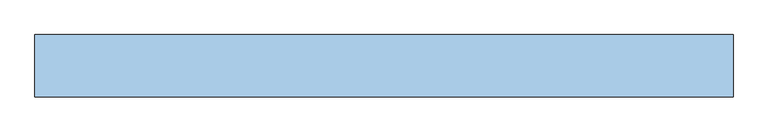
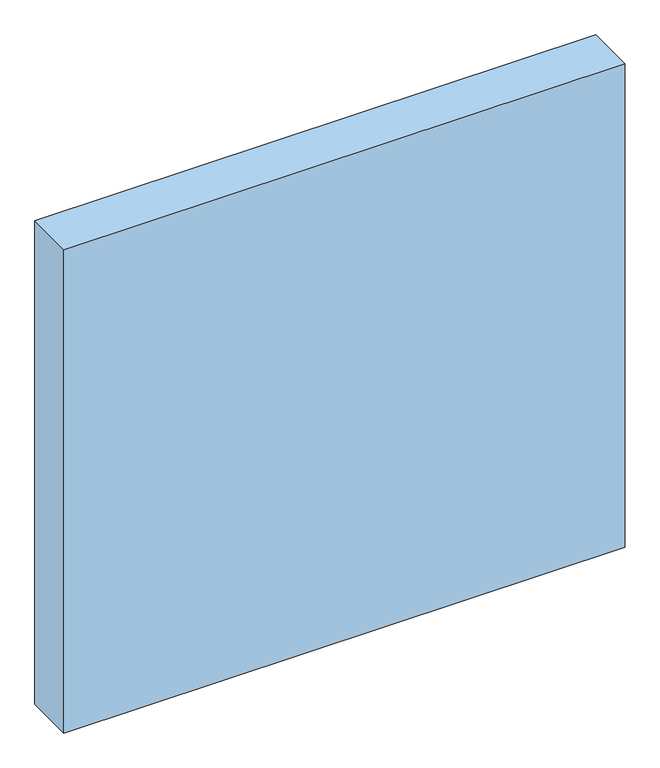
"""IFC4 building model written with IfcOpenShell, lengths in millimetres: window geometry, Dr_Проем-Четверти_об модель : ОК."""

from ifc_helpers import new_model, si_unit, frame, origin, place, context, project, spatial, polyline, outline, extrude, source, transform, mapped, element, save


def window_6eaa91db(model_context):
    return source(origin(), model_context, "Body", "SweptSolid", [
        extrude(outline(polyline([(1255.0, 100.0), (1255.0, -100.0), (-985.0, -100.0), (-985.0, 100.0), (1255.0, 100.0)])), frame((0.0, 0.0, -70.0), z_axis=(0.0, 0.0, 1.0), x_axis=(1.0, 0.0, 0.0)), (0.0, 0.0, 1.0), 2040.0),
    ])


if __name__ == "__main__":
    model = new_model("IFC4")
    model_context = context("Model", 3, world=origin())
    ifc_project = project(units=[si_unit("LENGTHUNIT", "METRE", prefix="MILLI")], contexts=[model_context])
    site = spatial("IfcSite", under=ifc_project)
    building = spatial("IfcBuilding", under=site)
    placement = place(None, origin())
    window_shape = window_6eaa91db(model_context)
    element("IfcWindow", 1, ObjectType="Dr_Проем-Четверти_об модель : ОК", at=placement, inside=building, context=model_context, shape_type="MappedRepresentation", body=[
        mapped(window_shape, transform((0.0, 0.0, 0.0), x_axis=(1.0, 0.0, 0.0), y_axis=(0.0, 1.0, 0.0), z_axis=(0.0, 0.0, 1.0))),
    ])
    save(model, "model.ifc")
